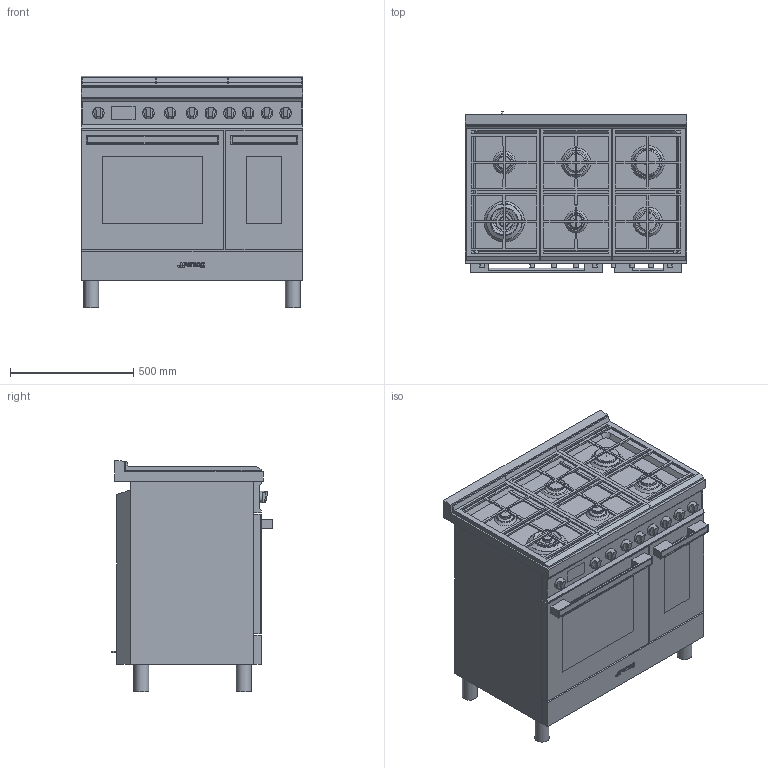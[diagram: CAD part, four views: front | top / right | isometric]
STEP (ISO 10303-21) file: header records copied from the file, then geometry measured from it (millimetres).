
FILE_DESCRIPTION(/* description */ (''),/* implementation_level */ '2;1');
FILE_NAME(/* name */ 'CPF92GMX.stp',/* time_stamp */ '2021-02-16T10:06:22+01:00',/* author */ (''),/* organization */ (''),/* preprocessor_version */ 'ST-DEVELOPER v16',/* originating_system */ 'SIEMENS PLM Software NX 11.0',/* authorisation */ '');
FILE_SCHEMA (('AUTOMOTIVE_DESIGN { 1 0 10303 214 3 1 1 1 }'));
Length unit declared in the file: millimetre
Products named in the file (1): Mart048817BCm2u1
Bounding box: 898 x 651.1 x 937.52 mm (x, y, z)
Volume: 397382924 mm3; surface area: 9667039.1 mm2
Topology: 55 solids, 56 shells, 815 faces, 2078 edges, 1370 vertices
Faces by surface type: plane 592, cylinder 123, bspline 60, cone 19, extrusion 11, torus 10
Full cylindrical faces by diameter (mm): 6 x5, 7 x16, 9.6 x6, 20 x2, 22 x9, 37 x1, 43 x1, 46 x2, 46.483 x9, 55 x2, 60 x4, 65.3 x2, 66 x1, 67 x2, 71.4 x1, 75 x2, 84.934 x1, 85.5 x2, 90 x1, 100 x1, 108.8 x1, 110.5 x1, 113 x1, 113.323 x1, 144.5 x1
Entity records: 28662 total; most frequent: CARTESIAN_POINT 9257, ORIENTED_EDGE 3896, DIRECTION 3546, EDGE_CURVE 1954, VECTOR 1486, LINE 1475, VERTEX_POINT 1360, AXIS2_PLACEMENT_3D 1030
